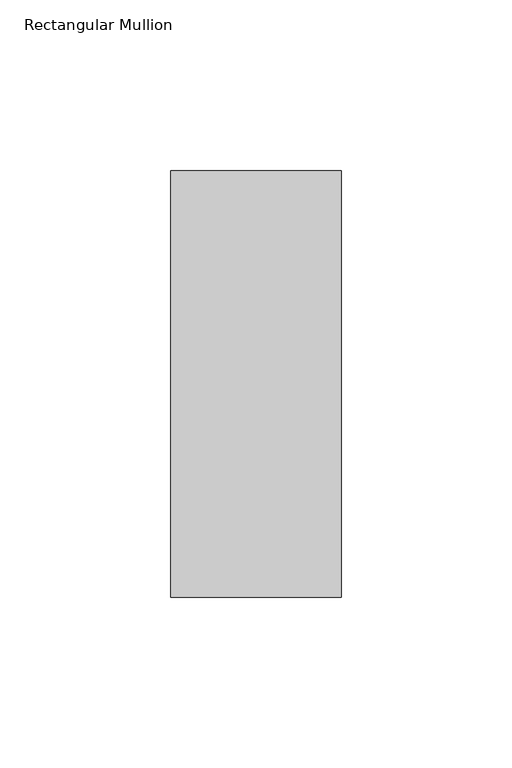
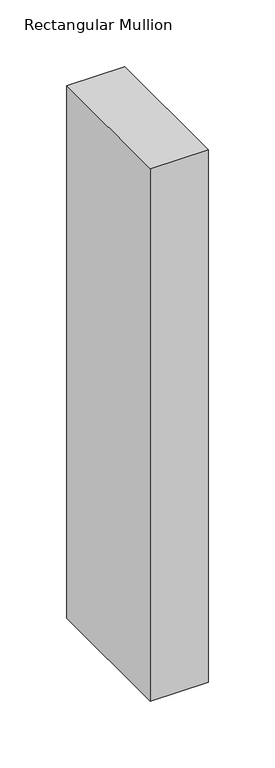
"""IFC4 building model written with IfcOpenShell, lengths in millimetres: member geometry, Rectangular Mullion : DucoSun Cubic Design profile 50x125 for louvre 300."""

from ifc_helpers import new_model, si_unit, frame, origin, place, context, project, spatial, polyline, outline, extrude, source, transform, mapped, element, save


def rectangular_mullion_75429e41(model_context):
    return source(origin(), model_context, "Body", "SweptSolid", [
        extrude(outline(polyline([(-50.0, -87.5), (0.0, -87.5), (0.0, -212.5), (-50.0, -212.5), (-50.0, -87.5)])), frame((0.0, 0.0, -486.4), z_axis=(0.0, 0.0, 1.0), x_axis=(1.0, 0.0, 0.0)), (0.0, 0.0, 1.0), 486.4),
    ])


if __name__ == "__main__":
    model = new_model("IFC4")
    model_context = context("Model", 3, world=origin())
    ifc_project = project(units=[si_unit("LENGTHUNIT", "METRE", prefix="MILLI")], contexts=[model_context])
    site = spatial("IfcSite", under=ifc_project)
    building = spatial("IfcBuilding", under=site)
    placement = place(None, origin())
    rectangular_mullion_shape = rectangular_mullion_75429e41(model_context)
    element("IfcMember", 1, ObjectType="Rectangular Mullion : DucoSun Cubic Design profile 50x125 for louvre 300", at=placement, inside=building, context=model_context, shape_type="MappedRepresentation", body=[
        mapped(rectangular_mullion_shape, transform((0.0, 0.0, 0.0), x_axis=(1.0, 0.0, 0.0), y_axis=(0.0, 1.0, 0.0), z_axis=(0.0, 0.0, 1.0))),
    ])
    save(model, "model.ifc")
